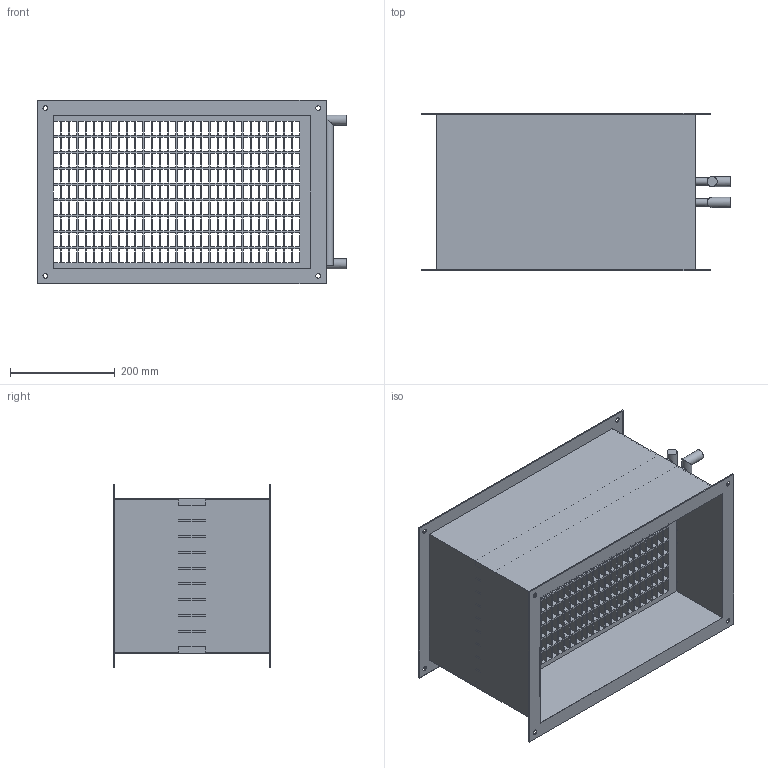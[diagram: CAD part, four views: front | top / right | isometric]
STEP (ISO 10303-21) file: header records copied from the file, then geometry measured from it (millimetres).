
FILE_DESCRIPTION(/* description */ (''),/* implementation_level */ '2;1');
FILE_NAME(/* name */ 'Z:\Output\WHR 2-50-30-08784-003.stp',/* time_stamp */ '2017-05-05T18:44:35+02:00',/* author */ ('jayeshpanchal'),/* organization */ (''),/* preprocessor_version */ 'ST-DEVELOPER v16.5',/* originating_system */ 'Autodesk Inventor 2017',/* authorisation */ '');
FILE_SCHEMA (('AUTOMOTIVE_DESIGN { 1 0 10303 214 3 1 1 }'));
Length unit declared in the file: millimetre
Products named in the file (1): WHRK-1
Bounding box: 589 x 300 x 350 mm (x, y, z)
Volume: 3676322.1 mm3; surface area: 2282448.9 mm2
Topology: 1 solids, 1 shells, 1166 faces, 3502 edges, 2336 vertices
Faces by surface type: plane 1136, cylinder 30
Full cylindrical faces by diameter (mm): 9 x8, 14.05 x18, 19.05 x4
Entity records: 39850 total; most frequent: CARTESIAN_POINT 7399, ORIENTED_EDGE 6900, DIRECTION 5826, EDGE_CURVE 3450, LINE 3336, VECTOR 3336, VERTEX_POINT 2314, EDGE_LOOP 1782
